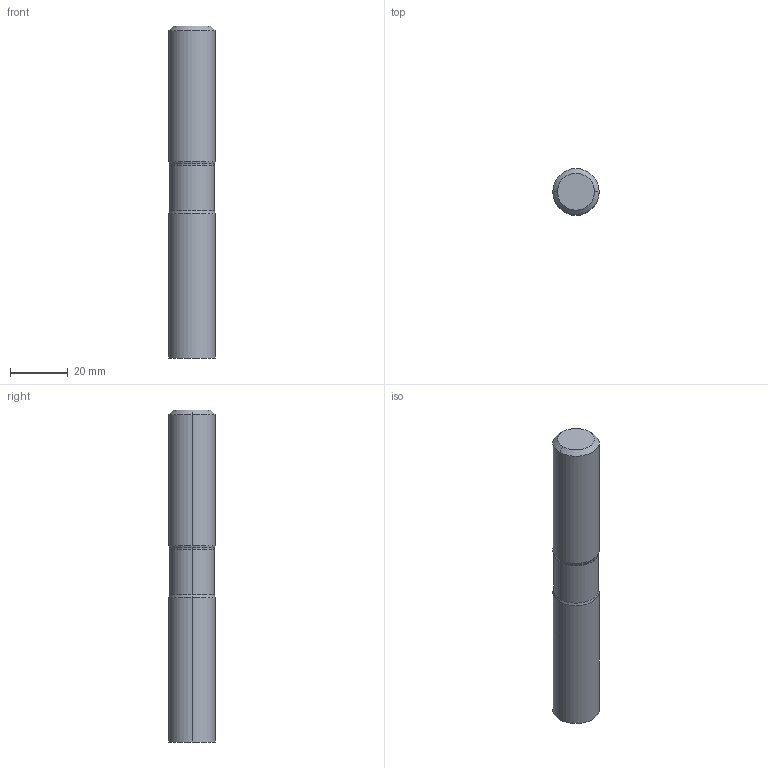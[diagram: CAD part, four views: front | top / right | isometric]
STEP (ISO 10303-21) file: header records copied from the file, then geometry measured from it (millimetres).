
FILE_DESCRIPTION (( 'STEP AP214' ), '1' );
FILE_NAME ('736.161.00_3D-model.step', '2022-02-19T09:13:45', ( '' ), ( '' ), 'SwSTEP 2.0', 'SolidWorks 2020', '' );
FILE_SCHEMA (( 'AUTOMOTIVE_DESIGN' ));
Length unit declared in the file: millimetre
Products named in the file (3): CUT-3D^Baugr127; NOCUT-3D^Baugr127; 736.161.00_3D-model
Assembly tree (2 placements, depth 2):
  736.161.00_3D-model
    CUT-3D^Baugr127
    NOCUT-3D^Baugr127
Bounding box: 16 x 16 x 115 mm (x, y, z)
Volume: 22851.9 mm3; surface area: 6510.8 mm2
Topology: 2 solids, 2 shells, 18 faces, 32 edges, 18 vertices
Faces by surface type: cylinder 6, cone 6, plane 4, torus 2
Entity records: 558 total; most frequent: DIRECTION 104, CARTESIAN_POINT 76, ORIENTED_EDGE 64, AXIS2_PLACEMENT_3D 46, EDGE_CURVE 32, CIRCLE 20, FACE_OUTER_BOUND 18, VERTEX_POINT 18
